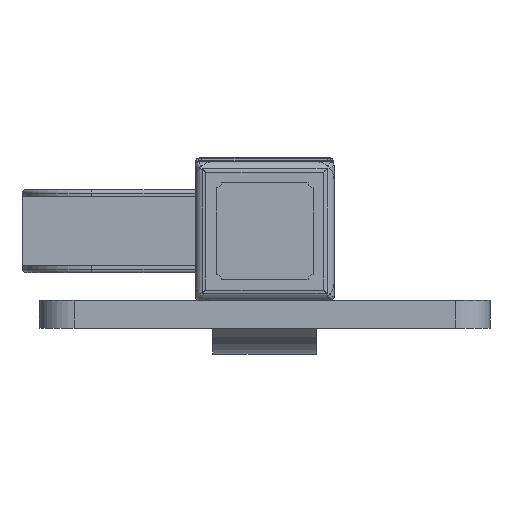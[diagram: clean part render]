
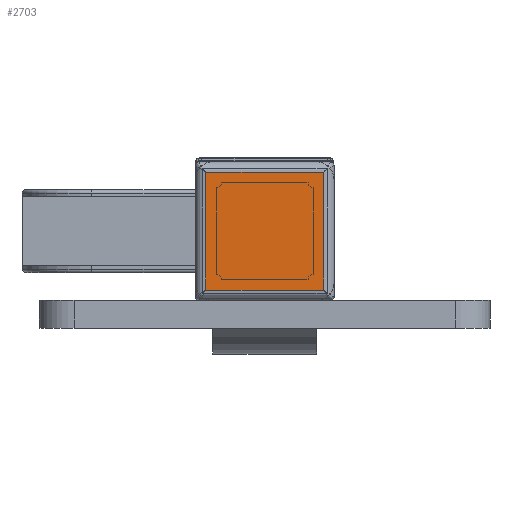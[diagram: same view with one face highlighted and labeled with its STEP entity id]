
A CAD part, front view. The second image highlights one B-rep face of the part: STEP entity #2703.
In plain terms, the highlighted planar face has unit normal (0, -1, 0).
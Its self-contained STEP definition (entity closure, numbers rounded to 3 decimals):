
#104 = CARTESIAN_POINT ( 'NONE',  ( -19., -5., 17. ) ) ;
#126 = CARTESIAN_POINT ( 'NONE',  ( 0., -5., 0. ) ) ;
#163 = DIRECTION ( 'NONE',  ( 0., 0., 1. ) ) ;
#376 = ORIENTED_EDGE ( 'NONE', *, *, #9720, .T. ) ;
#656 = DIRECTION ( 'NONE',  ( 0., 0., -1. ) ) ;
#1480 = VECTOR ( 'NONE', #9249, 1000. ) ;
#1554 = CARTESIAN_POINT ( 'NONE',  ( 19., -5., -17. ) ) ;
#2048 = ORIENTED_EDGE ( 'NONE', *, *, #10025, .T. ) ;
#2097 = LINE ( 'NONE', #1554, #1480 ) ;
#2165 = VERTEX_POINT ( 'NONE', #8095 ) ;
#2388 = EDGE_LOOP ( 'NONE', ( #7596, #376, #3936, #2048 ) ) ;
#2476 = VERTEX_POINT ( 'NONE', #6650 ) ;
#2703 = ADVANCED_FACE ( 'NONE', ( #8146 ), #9731, .T. ) ;
#3936 = ORIENTED_EDGE ( 'NONE', *, *, #9463, .T. ) ;
#5262 = VERTEX_POINT ( 'NONE', #8182 ) ;
#5433 = VECTOR ( 'NONE', #9664, 1000. ) ;
#5998 = DIRECTION ( 'NONE',  ( 0., -1., 0. ) ) ;
#6040 = VECTOR ( 'NONE', #9585, 1000. ) ;
#6650 = CARTESIAN_POINT ( 'NONE',  ( -17., -5., -17. ) ) ;
#7379 = CARTESIAN_POINT ( 'NONE',  ( 17., -5., -17. ) ) ;
#7596 = ORIENTED_EDGE ( 'NONE', *, *, #9639, .T. ) ;
#7666 = LINE ( 'NONE', #10189, #12052 ) ;
#7720 = VERTEX_POINT ( 'NONE', #7379 ) ;
#7936 = LINE ( 'NONE', #104, #5433 ) ;
#8095 = CARTESIAN_POINT ( 'NONE',  ( -17., -5., 17. ) ) ;
#8146 = FACE_OUTER_BOUND ( 'NONE', #2388, .T. ) ;
#8182 = CARTESIAN_POINT ( 'NONE',  ( 17., -5., 17. ) ) ;
#8529 = LINE ( 'NONE', #9548, #6040 ) ;
#9249 = DIRECTION ( 'NONE',  ( 1., 0., 0. ) ) ;
#9463 = EDGE_CURVE ( 'NONE', #2165, #2476, #7666, .T. ) ;
#9548 = CARTESIAN_POINT ( 'NONE',  ( 17., -5., 19. ) ) ;
#9585 = DIRECTION ( 'NONE',  ( 0., 0., 1. ) ) ;
#9639 = EDGE_CURVE ( 'NONE', #7720, #5262, #8529, .T. ) ;
#9664 = DIRECTION ( 'NONE',  ( -1., 0., 0. ) ) ;
#9720 = EDGE_CURVE ( 'NONE', #5262, #2165, #7936, .T. ) ;
#9731 = PLANE ( 'NONE',  #10920 ) ;
#10025 = EDGE_CURVE ( 'NONE', #2476, #7720, #2097, .T. ) ;
#10189 = CARTESIAN_POINT ( 'NONE',  ( -17., -5., -19. ) ) ;
#10920 = AXIS2_PLACEMENT_3D ( 'NONE', #126, #5998, #163 ) ;
#12052 = VECTOR ( 'NONE', #656, 1000. ) ;
